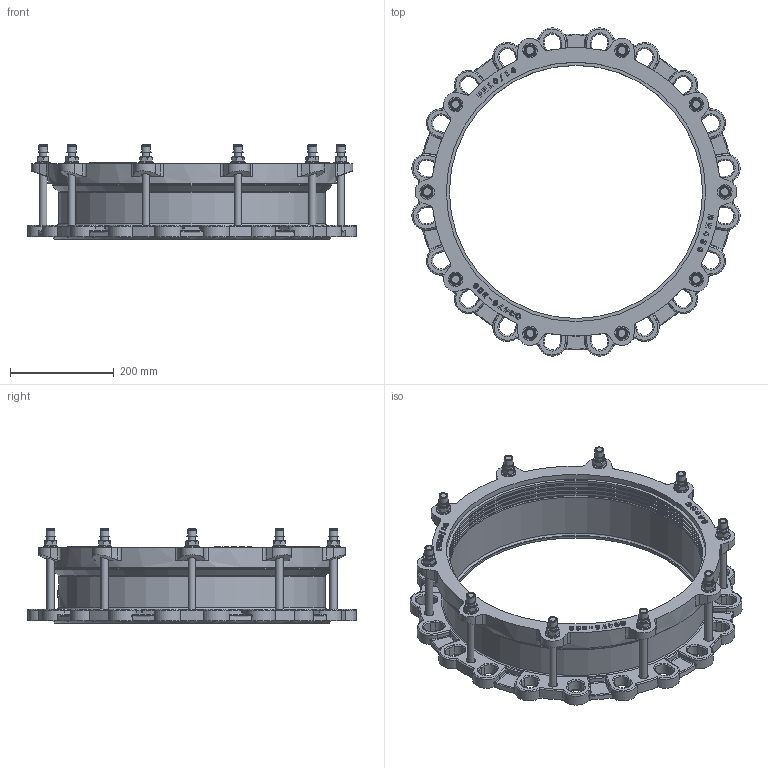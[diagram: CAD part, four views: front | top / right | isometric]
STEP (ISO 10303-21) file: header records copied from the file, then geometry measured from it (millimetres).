
FILE_DESCRIPTION(('STEP AP203'), '1');
FILE_NAME('Ôëàíöåâûé àäàïòåð', '', ('UNSPECIFIED'), ('UNSPECIFIED'), 'C3D Converter', 'C3D Toolkit', '');
FILE_SCHEMA(('CONFIG_CONTROL_DESIGN'));
Length unit declared in the file: millimetre
Assembly tree (43 placements, depth 2):
  (unnamed)
    (unnamed)
    (unnamed)  x10
    (unnamed)  x10
    (unnamed)  x10
    (unnamed)  x10
    (unnamed)
    (unnamed)
Bounding box: 632.8 x 632.8 x 181.4 mm (x, y, z)
Volume: 5478485.1 mm3; surface area: 1245199.4 mm2
Topology: 43 solids, 43 shells, 1802 faces, 4478 edges, 2694 vertices
Faces by surface type: plane 576, cylinder 517, extrusion 314, torus 181, bspline 80, cone 74, sphere 60
Full cylindrical faces by diameter (mm): 13.478 x1, 14 x30, 15 x10, 16 x20, 16.8 x10, 19.6 x10, 28 x10, 488 x5, 494 x3, 500 x2, 507 x1, 514 x2, 538.5 x1, 542 x2, 556 x1
Entity records: 64499 total; most frequent: CARTESIAN_POINT 26119, ORIENTED_EDGE 7100, DIRECTION 6302, EDGE_CURVE 3550, AXIS2_PLACEMENT_3D 2251, VERTEX_POINT 2226, VECTOR 1800, EDGE_LOOP 1654
